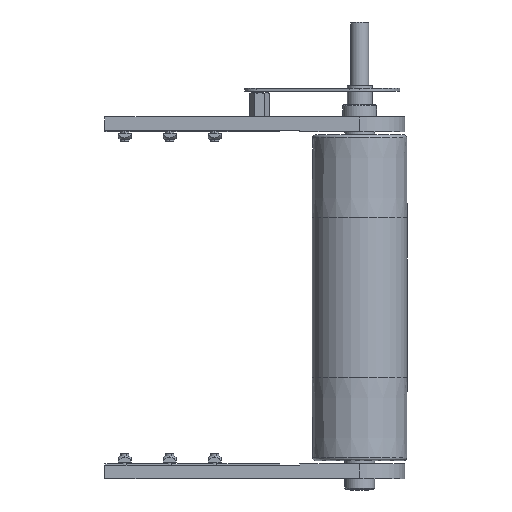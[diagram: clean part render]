
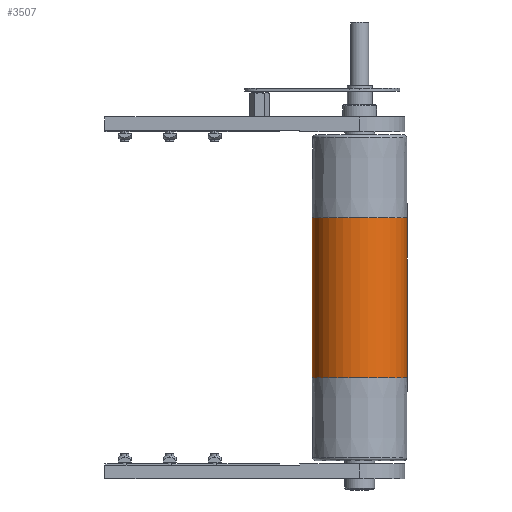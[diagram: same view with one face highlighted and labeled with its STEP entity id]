
A CAD part, front view. The second image highlights one B-rep face of the part: STEP entity #3507.
In plain terms, the highlighted cylindrical face has radius 47.5 mm (diameter 95 mm), a partial arc.
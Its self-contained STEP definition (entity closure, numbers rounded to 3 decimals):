
#3507 = ADVANCED_FACE ( 'NONE', ( #19180 ), #19179, .T. ) ;
#5363 = VECTOR ( 'NONE', #16516, 1000. ) ;
#5365 = VECTOR ( 'NONE', #16520, 1000. ) ;
#5816 = EDGE_LOOP ( 'NONE', ( #8913, #8912, #8911, #8910 ) ) ;
#6649 = EDGE_CURVE ( 'NONE', #10886, #10887, #17874, .T. ) ;
#6650 = EDGE_CURVE ( 'NONE', #10889, #10890, #17876, .T. ) ;
#6815 = EDGE_CURVE ( 'NONE', #10889, #10886, #16509, .T. ) ;
#6816 = EDGE_CURVE ( 'NONE', #10890, #10887, #16517, .T. ) ;
#8910 = ORIENTED_EDGE ( 'NONE', *, *, #6649, .T. ) ;
#8911 = ORIENTED_EDGE ( 'NONE', *, *, #6815, .T. ) ;
#8912 = ORIENTED_EDGE ( 'NONE', *, *, #6650, .F. ) ;
#8913 = ORIENTED_EDGE ( 'NONE', *, *, #6816, .F. ) ;
#9727 = CARTESIAN_POINT ( 'NONE',  ( -80., 0., 47.5 ) ) ;
#9728 = CARTESIAN_POINT ( 'NONE',  ( -80., 0., -47.5 ) ) ;
#9730 = CARTESIAN_POINT ( 'NONE',  ( 80., 0., 47.5 ) ) ;
#9731 = CARTESIAN_POINT ( 'NONE',  ( 80., 0., -47.5 ) ) ;
#10886 = VERTEX_POINT ( 'NONE', #9727 ) ;
#10887 = VERTEX_POINT ( 'NONE', #9728 ) ;
#10889 = VERTEX_POINT ( 'NONE', #9730 ) ;
#10890 = VERTEX_POINT ( 'NONE', #9731 ) ;
#12513 = CARTESIAN_POINT ( 'NONE',  ( -80., 0., 0. ) ) ;
#12514 = DIRECTION ( 'NONE',  ( 1., 0., 0. ) ) ;
#12515 = DIRECTION ( 'NONE',  ( 0., 0., -1. ) ) ;
#12516 = CARTESIAN_POINT ( 'NONE',  ( 80., 0., 0. ) ) ;
#12517 = DIRECTION ( 'NONE',  ( 1., 0., 0. ) ) ;
#12518 = DIRECTION ( 'NONE',  ( 0., 0., -1. ) ) ;
#16505 = CARTESIAN_POINT ( 'NONE',  ( 160., 0., 47.5 ) ) ;
#16509 = LINE ( 'NONE', #16505, #5363 ) ;
#16516 = DIRECTION ( 'NONE',  ( -1., 0., 0. ) ) ;
#16517 = LINE ( 'NONE', #16519, #5365 ) ;
#16519 = CARTESIAN_POINT ( 'NONE',  ( 160., 0., -47.5 ) ) ;
#16520 = DIRECTION ( 'NONE',  ( -1., 0., 0. ) ) ;
#17874 = CIRCLE ( 'NONE', #17879, 47.5 ) ;
#17876 = CIRCLE ( 'NONE', #17881, 47.5 ) ;
#17879 = AXIS2_PLACEMENT_3D ( 'NONE', #12513, #12514, #12515 ) ;
#17881 = AXIS2_PLACEMENT_3D ( 'NONE', #12516, #12517, #12518 ) ;
#18798 = AXIS2_PLACEMENT_3D ( 'NONE', #19184, #19172, #19186 ) ;
#19172 = DIRECTION ( 'NONE',  ( -1., 0., 0. ) ) ;
#19179 = CYLINDRICAL_SURFACE ( 'NONE', #18798, 47.5 ) ;
#19180 = FACE_OUTER_BOUND ( 'NONE', #5816, .T. ) ;
#19184 = CARTESIAN_POINT ( 'NONE',  ( 160., 0., 0. ) ) ;
#19186 = DIRECTION ( 'NONE',  ( 0., 0., 1. ) ) ;
